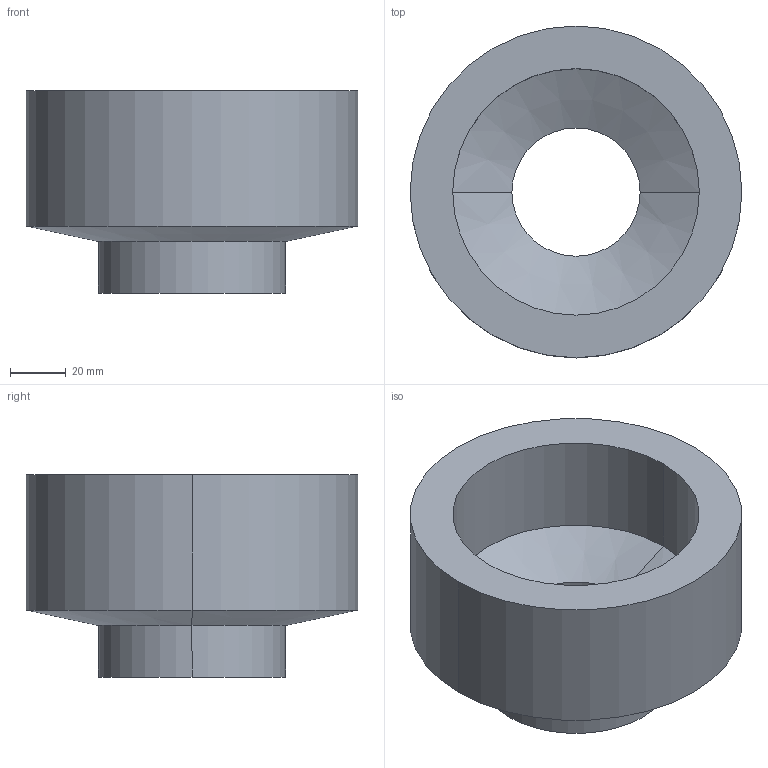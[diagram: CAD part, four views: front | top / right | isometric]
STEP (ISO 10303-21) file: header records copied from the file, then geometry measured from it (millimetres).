
FILE_DESCRIPTION (( 'STEP AP203' ), '1' );
FILE_NAME ('PMR21 FADO.STEP', '2022-08-23T10:53:50', ( '' ), ( '' ), 'SwSTEP 2.0', 'SolidWorks 2021', '' );
FILE_SCHEMA (( 'CONFIG_CONTROL_DESIGN' ));
Length unit declared in the file: millimetre
Products named in the file (1): PMR21 FADO
Bounding box: 118.8 x 118.8 x 72.4 mm (x, y, z)
Volume: 333867.3 mm3; surface area: 55481 mm2
Topology: 1 solids, 1 shells, 17 faces, 34 edges, 20 vertices
Faces by surface type: cylinder 10, cone 4, plane 3
Entity records: 525 total; most frequent: DIRECTION 90, CARTESIAN_POINT 72, ORIENTED_EDGE 68, AXIS2_PLACEMENT_3D 38, EDGE_CURVE 34, VERTEX_POINT 20, CIRCLE 20, EDGE_LOOP 20
